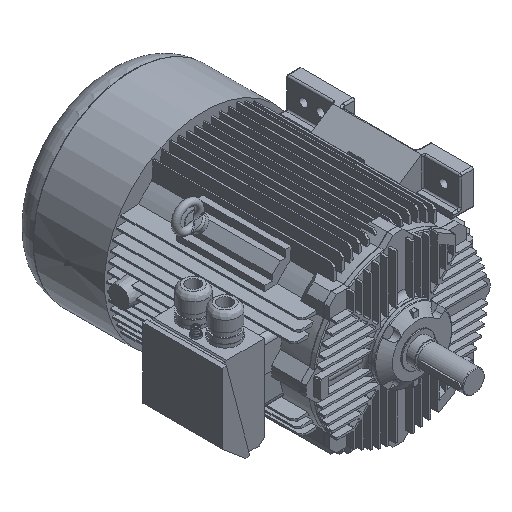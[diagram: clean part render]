
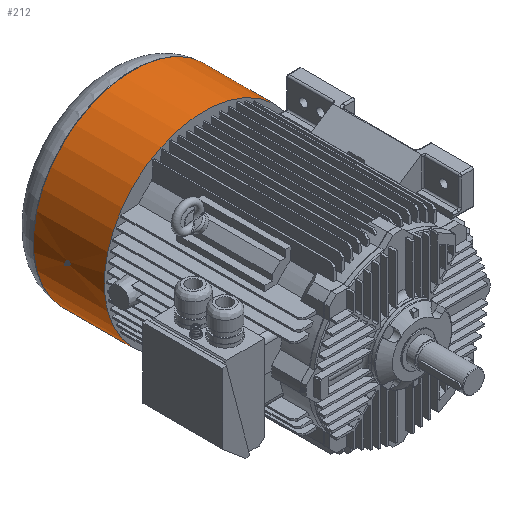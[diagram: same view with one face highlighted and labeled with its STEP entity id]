
A CAD part, isometric view. The second image highlights one B-rep face of the part: STEP entity #212.
In plain terms, the highlighted cylindrical face has radius 298 mm (diameter 596 mm), a partial arc.
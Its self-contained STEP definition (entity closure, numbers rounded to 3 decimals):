
#212 = ADVANCED_FACE( '', ( #1687, #1688 ), #1689, .T. );
#1687 = FACE_OUTER_BOUND( '', #5582, .T. );
#1688 = FACE_BOUND( '', #5583, .T. );
#1689 = CYLINDRICAL_SURFACE( '', #5584, 298. );
#5582 = EDGE_LOOP( '', ( #19926, #19927, #19928, #19929 ) );
#5583 = EDGE_LOOP( '', ( #19930, #19931, #19932, #19933, #19934, #19935 ) );
#5584 = AXIS2_PLACEMENT_3D( '', #19936, #19937, #19938 );
#19926 = ORIENTED_EDGE( '', *, *, #31172, .T. );
#19927 = ORIENTED_EDGE( '', *, *, #31117, .T. );
#19928 = ORIENTED_EDGE( '', *, *, #31173, .F. );
#19929 = ORIENTED_EDGE( '', *, *, #31170, .T. );
#19930 = ORIENTED_EDGE( '', *, *, #31174, .F. );
#19931 = ORIENTED_EDGE( '', *, *, #31175, .F. );
#19932 = ORIENTED_EDGE( '', *, *, #31176, .F. );
#19933 = ORIENTED_EDGE( '', *, *, #31177, .F. );
#19934 = ORIENTED_EDGE( '', *, *, #31178, .F. );
#19935 = ORIENTED_EDGE( '', *, *, #31179, .F. );
#19936 = CARTESIAN_POINT( '', ( 0., 571., 0. ) );
#19937 = DIRECTION( '', ( 0., 1., 0. ) );
#19938 = DIRECTION( '', ( -1., 0., 0. ) );
#31117 = EDGE_CURVE( '', #34893, #34891, #34894, .T. );
#31170 = EDGE_CURVE( '', #34993, #34991, #34994, .F. );
#31172 = EDGE_CURVE( '', #34991, #34893, #34996, .T. );
#31173 = EDGE_CURVE( '', #34993, #34891, #34997, .T. );
#31174 = EDGE_CURVE( '', #34998, #34999, #35000, .T. );
#31175 = EDGE_CURVE( '', #35001, #34998, #35002, .T. );
#31176 = EDGE_CURVE( '', #35003, #35001, #35004, .T. );
#31177 = EDGE_CURVE( '', #35005, #35003, #35006, .T. );
#31178 = EDGE_CURVE( '', #35007, #35005, #35008, .F. );
#31179 = EDGE_CURVE( '', #34999, #35007, #35009, .T. );
#34891 = VERTEX_POINT( '', #41252 );
#34893 = VERTEX_POINT( '', #41254 );
#34894 = LINE( '', #41255, #41256 );
#34991 = VERTEX_POINT( '', #41625 );
#34993 = VERTEX_POINT( '', #41627 );
#34994 = LINE( '', #41628, #41629 );
#34996 = CIRCLE( '', #41631, 298. );
#34997 = CIRCLE( '', #41632, 298. );
#34998 = VERTEX_POINT( '', #41633 );
#34999 = VERTEX_POINT( '', #41634 );
#35000 = ELLIPSE( '', #41635, 344.101, 298. );
#35001 = VERTEX_POINT( '', #41636 );
#35002 = LINE( '', #41637, #41638 );
#35003 = VERTEX_POINT( '', #41639 );
#35004 = ELLIPSE( '', #41640, 344.101, 298. );
#35005 = VERTEX_POINT( '', #41641 );
#35006 = ELLIPSE( '', #41642, 344.101, 298. );
#35007 = VERTEX_POINT( '', #41643 );
#35008 = LINE( '', #41644, #41645 );
#35009 = ELLIPSE( '', #41646, 344.101, 298. );
#41252 = CARTESIAN_POINT( '', ( 267.194, 571., -131.952 ) );
#41254 = CARTESIAN_POINT( '', ( 267.194, 784., -131.952 ) );
#41255 = CARTESIAN_POINT( '', ( 267.194, 1024.47, -131.952 ) );
#41256 = VECTOR( '', #58365, 1000. );
#41625 = CARTESIAN_POINT( '', ( 267.194, 784., 131.952 ) );
#41627 = CARTESIAN_POINT( '', ( 267.194, 571., 131.952 ) );
#41628 = CARTESIAN_POINT( '', ( 267.194, 1024.47, 131.952 ) );
#41629 = VECTOR( '', #58416, 1000. );
#41631 = AXIS2_PLACEMENT_3D( '', #58420, #58421, #58422 );
#41632 = AXIS2_PLACEMENT_3D( '', #58423, #58424, #58425 );
#41633 = CARTESIAN_POINT( '', ( -297.966, 675.243, -4.493 ) );
#41634 = CARTESIAN_POINT( '', ( -298., 672.649, 0. ) );
#41635 = AXIS2_PLACEMENT_3D( '', #58426, #58427, #58428 );
#41636 = CARTESIAN_POINT( '', ( -297.966, 682.757, -4.493 ) );
#41637 = CARTESIAN_POINT( '', ( -297.966, 571., -4.493 ) );
#41638 = VECTOR( '', #58429, 1000. );
#41639 = CARTESIAN_POINT( '', ( -298., 685.351, 0. ) );
#41640 = AXIS2_PLACEMENT_3D( '', #58430, #58431, #58432 );
#41641 = CARTESIAN_POINT( '', ( -297.966, 682.757, 4.493 ) );
#41642 = AXIS2_PLACEMENT_3D( '', #58433, #58434, #58435 );
#41643 = CARTESIAN_POINT( '', ( -297.966, 675.243, 4.493 ) );
#41644 = CARTESIAN_POINT( '', ( -297.966, 571., 4.493 ) );
#41645 = VECTOR( '', #58436, 1000. );
#41646 = AXIS2_PLACEMENT_3D( '', #58437, #58438, #58439 );
#58365 = DIRECTION( '', ( 0., -1., 0. ) );
#58416 = DIRECTION( '', ( 0., -1., 0. ) );
#58420 = CARTESIAN_POINT( '', ( 0., 784., 0. ) );
#58421 = DIRECTION( '', ( 0., -1., 0. ) );
#58422 = DIRECTION( '', ( -1., 0., 0. ) );
#58423 = CARTESIAN_POINT( '', ( 0., 571., 0. ) );
#58424 = DIRECTION( '', ( 0., -1., 0. ) );
#58425 = DIRECTION( '', ( -1., 0., 0. ) );
#58426 = CARTESIAN_POINT( '', ( 0., 672.649, 0. ) );
#58427 = DIRECTION( '', ( 0., 0.866, 0.5 ) );
#58428 = DIRECTION( '', ( 0., -0.5, 0.866 ) );
#58429 = DIRECTION( '', ( 0., -1., 0. ) );
#58430 = CARTESIAN_POINT( '', ( 0., 685.351, 0. ) );
#58431 = DIRECTION( '', ( 0., -0.866, 0.5 ) );
#58432 = DIRECTION( '', ( 0., -0.5, -0.866 ) );
#58433 = CARTESIAN_POINT( '', ( 0., 685.351, 0. ) );
#58434 = DIRECTION( '', ( 0., -0.866, -0.5 ) );
#58435 = DIRECTION( '', ( 0., -0.5, 0.866 ) );
#58436 = DIRECTION( '', ( 0., -1., 0. ) );
#58437 = CARTESIAN_POINT( '', ( 0., 672.649, 0. ) );
#58438 = DIRECTION( '', ( 0., 0.866, -0.5 ) );
#58439 = DIRECTION( '', ( 0., -0.5, -0.866 ) );
